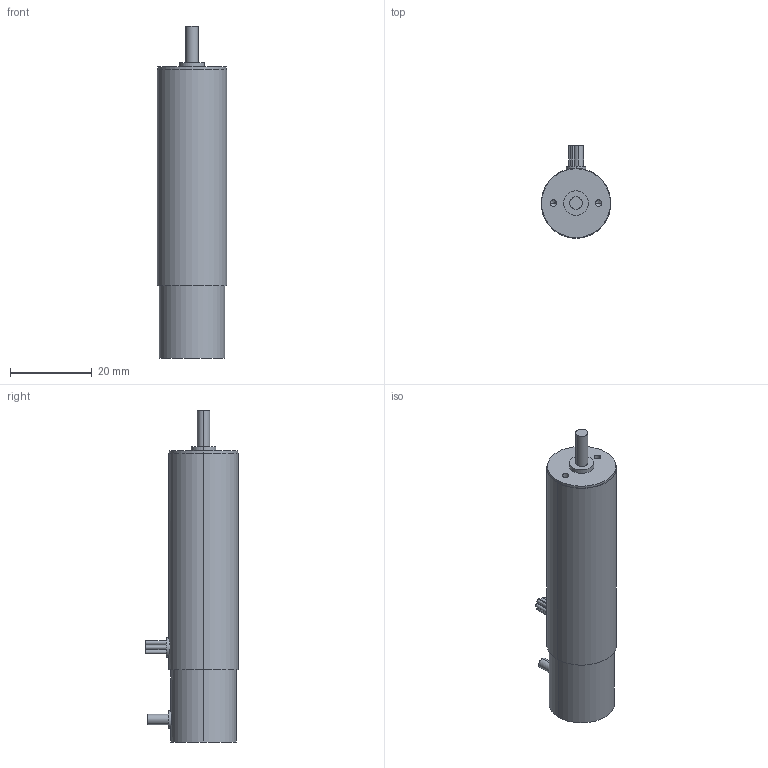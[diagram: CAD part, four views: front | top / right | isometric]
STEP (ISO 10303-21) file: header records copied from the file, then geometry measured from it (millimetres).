
FILE_DESCRIPTION (( 'STEP AP214' ), '1' );
FILE_NAME ('EA-1771.STEP', '2024-10-25T01:05:25', ( '' ), ( '' ), 'SwSTEP 2.0', 'SolidWorks 2024', '' );
FILE_SCHEMA (( 'AUTOMOTIVE_DESIGN' ));
Length unit declared in the file: millimetre
Products named in the file (1): EA-1771
Bounding box: 17 x 22.6 x 81 mm (x, y, z)
Volume: 15805.9 mm3; surface area: 4501 mm2
Topology: 1 solids, 1 shells, 45 faces, 92 edges, 58 vertices
Faces by surface type: cylinder 28, plane 13, cone 4
Entity records: 1309 total; most frequent: CARTESIAN_POINT 308, DIRECTION 228, ORIENTED_EDGE 176, AXIS2_PLACEMENT_3D 98, EDGE_CURVE 88, EDGE_LOOP 58, VERTEX_POINT 58, CIRCLE 52
